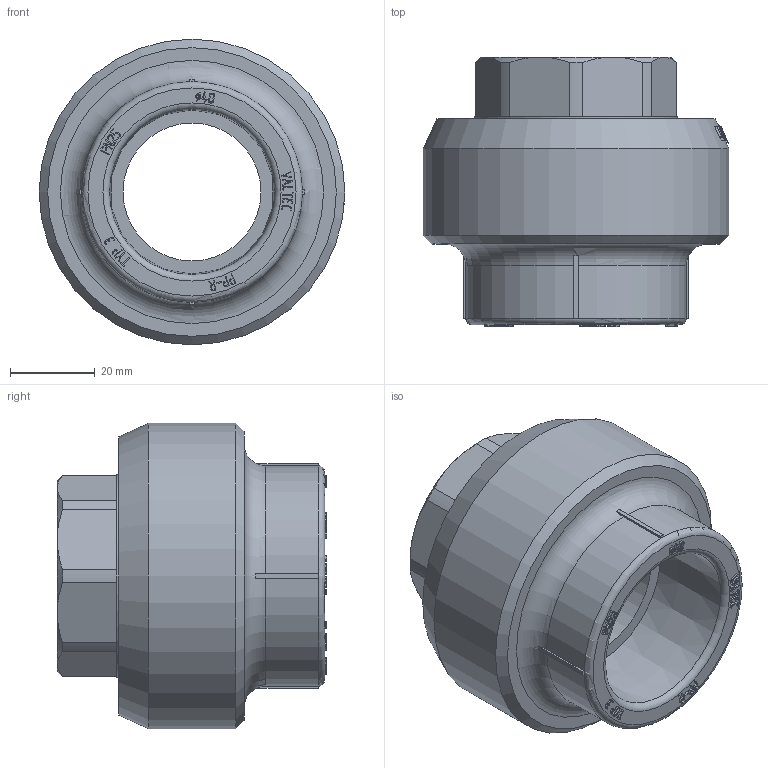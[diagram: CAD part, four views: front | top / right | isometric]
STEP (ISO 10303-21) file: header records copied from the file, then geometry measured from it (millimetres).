
FILE_DESCRIPTION(('STEP AP203'), '1');
FILE_NAME('ÂÐ.753153.017 - VTp.706.0.04007', '', ('UNSPECIFIED'), ('UNSPECIFIED'), 'C3D Converter', 'C3D Toolkit', '');
FILE_SCHEMA(('CONFIG_CONTROL_DESIGN'));
Length unit declared in the file: millimetre
Products named in the file (4): ВР.753153.017; ВР.302639.020.000; ВР.753157.038
Assembly tree (3 placements, depth 3):
  ВР.753153.017
    ВР.302639.020.000
      ВР.753157.038
      (unnamed)
Bounding box: 72 x 63.5 x 72 mm (x, y, z)
Volume: 117602.8 mm3; surface area: 50343.7 mm2
Topology: 3 solids, 3 shells, 865 faces, 2374 edges, 1578 vertices
Faces by surface type: extrusion 421, plane 367, cylinder 49, cone 24, torus 4
Full cylindrical faces by diameter (mm): 32.5 x1, 38.953 x2, 45.5 x2, 47.8 x1, 51.5 x8, 58 x10, 72 x1
Entity records: 30864 total; most frequent: CARTESIAN_POINT 10551, ORIENTED_EDGE 4666, DIRECTION 2848, EDGE_CURVE 2333, VECTOR 1602, VERTEX_POINT 1571, B_SPLINE_CURVE_WITH_KNOTS 1403, LINE 1181
